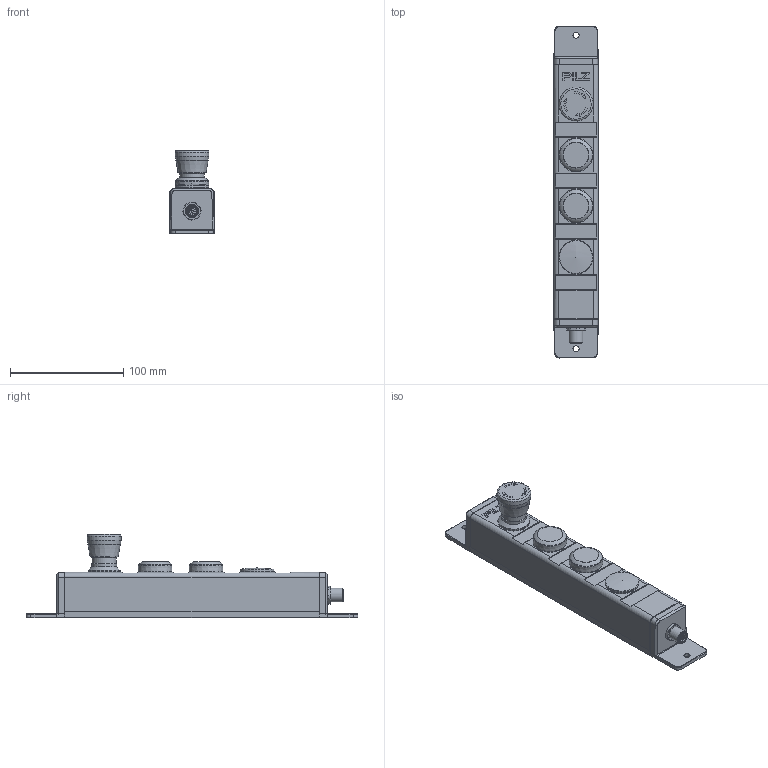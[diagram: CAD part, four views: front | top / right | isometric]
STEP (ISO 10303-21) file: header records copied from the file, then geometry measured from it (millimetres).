
FILE_DESCRIPTION(/* description */ (''),/* implementation_level */ '2;1');
FILE_NAME(/* name */ 'C:\_Vault\Workspace\Projektordner\03-Sensoren\02-STS\09-PITgatebox\03-Kundendaten\2030195_B_PIT_gb_CSSE.stp',/* time_stamp */ '2021-04-16T08:26:48+02:00',/* author */ ('ES-PE'),/* organization */ (''),/* preprocessor_version */ 'ST-DEVELOPER v18.1',/* originating_system */ 'Autodesk Inventor 2020',/* authorisation */ '');
FILE_SCHEMA (('AUTOMOTIVE_DESIGN { 1 0 10303 214 3 1 1 }'));
Length unit declared in the file: millimetre
Products named in the file (4): 2030195; Kundendaten_PIT_gb_Gehäuse; H306916; H306915
Assembly tree (3 placements, depth 2):
  2030195
    Kundendaten_PIT_gb_Gehäuse
    H306916
    H306915
Bounding box: 40 x 293 x 73.68 mm (x, y, z)
Volume: 416588.5 mm3; surface area: 60375.2 mm2
Topology: 6 solids, 6 shells, 571 faces, 1433 edges, 926 vertices
Faces by surface type: cylinder 187, plane 182, cone 129, torus 33, bspline 23, sphere 17
Full cylindrical faces by diameter (mm): 0.6 x12, 1.1 x12, 5.4 x2, 8.3 x1, 9.5 x2, 9.6 x1, 10 x2, 10.6 x1, 11 x1, 12 x1, 12.1 x1, 14 x1, 20 x2, 21.5 x1, 22.2 x1, 22.55 x1, 28 x1, 28.2 x1, 28.6 x2, 29.2 x2
Entity records: 19093 total; most frequent: CARTESIAN_POINT 5280, DIRECTION 2950, ORIENTED_EDGE 2840, EDGE_CURVE 1420, AXIS2_PLACEMENT_3D 1217, VERTEX_POINT 926, CIRCLE 650, EDGE_LOOP 642
